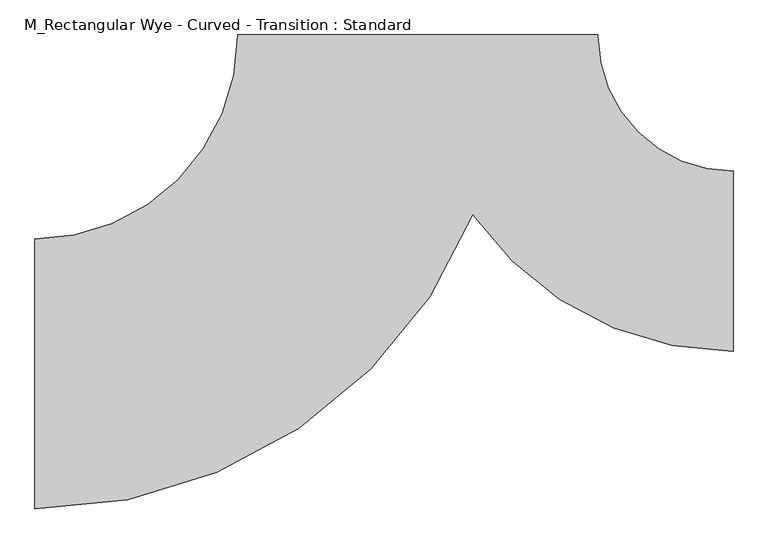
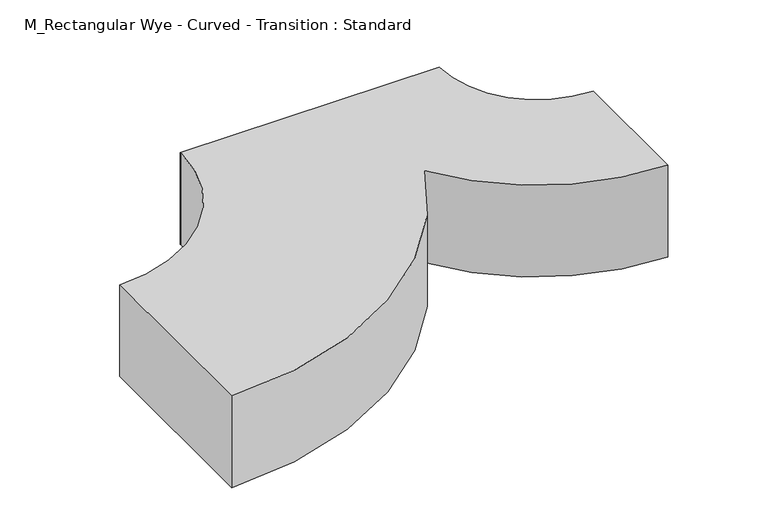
"""IFC4 building model written with IfcOpenShell, lengths in millimetres: duct fitting geometry, M_Rectangular Wye - Curved - Transition : Standard."""

from ifc_helpers import new_model, si_unit, point, frame, frame_2d, origin, place, context, project, spatial, polyline, circle_curve, trimmed, segment, composite_curve, outline, extrude, source, transform, mapped, element, save


def m_rectangular_wye_curved_transition_standard_4ceeb4da(model_context):
    return source(origin(), model_context, "Body", "SweptSolid", [
        extrude(outline(composite_curve([segment(polyline([(-850.0, -425.0), (-850.0, 175.0)]), True, "CONTINUOUS"), segment(trimmed(circle_curve(frame_2d((-850.0, 625.0)), 450.0), [point((-850.0, 175.0))], [point((-400.0, 625.0))], True, "CARTESIAN"), True, "CONTINUOUS"), segment(polyline([(-400.0, 625.0), (-400.0, 628.175), (400.0, 628.175), (400.0, 625.0)]), True, "CONTINUOUS"), segment(trimmed(circle_curve(frame_2d((700.0, 625.0)), 300.0), [point((400.0, 625.0))], [point((700.0, 325.0))], True, "CARTESIAN"), True, "CONTINUOUS"), segment(polyline([(700.0, 325.0), (700.0, -75.0)]), True, "CONTINUOUS"), segment(trimmed(circle_curve(frame_2d((700.0, 625.0)), 700.0), [point((700.0, -75.0))], [point((122.5806452, 229.2893877))], False, "CARTESIAN"), True, "CONTINUOUS"), segment(trimmed(circle_curve(frame_2d((-850.0, 625.0)), 1050.0), [point((122.5806452, 229.2893877))], [point((-850.0, -425.0))], False, "CARTESIAN"), True, "CONTINUOUS")], self_intersect=False)), frame((0.0, 0.0, -150.0), z_axis=(0.0, 0.0, 1.0), x_axis=(1.0, 0.0, 0.0)), (0.0, 0.0, 1.0), 300.0),
    ])


if __name__ == "__main__":
    model = new_model("IFC4")
    model_context = context("Model", 3, world=origin())
    ifc_project = project(units=[si_unit("LENGTHUNIT", "METRE", prefix="MILLI")], contexts=[model_context])
    site = spatial("IfcSite", under=ifc_project)
    building = spatial("IfcBuilding", under=site)
    placement = place(None, origin())
    m_rectangular_wye_curved_transition_standard_shape = m_rectangular_wye_curved_transition_standard_4ceeb4da(model_context)
    element("IfcDuctFitting", 1, ObjectType="M_Rectangular Wye - Curved - Transition : Standard", at=placement, inside=building, context=model_context, shape_type="MappedRepresentation", body=[
        mapped(m_rectangular_wye_curved_transition_standard_shape, transform((0.0, 0.0, 0.0), x_axis=(1.0, 0.0, 0.0), y_axis=(0.0, 1.0, 0.0), z_axis=(0.0, 0.0, 1.0))),
    ])
    save(model, "model.ifc")
